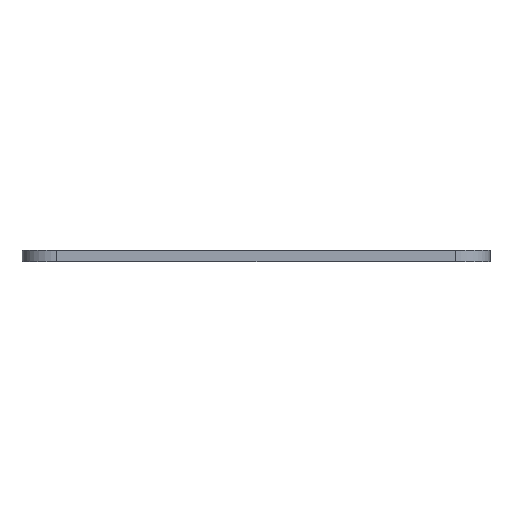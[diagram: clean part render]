
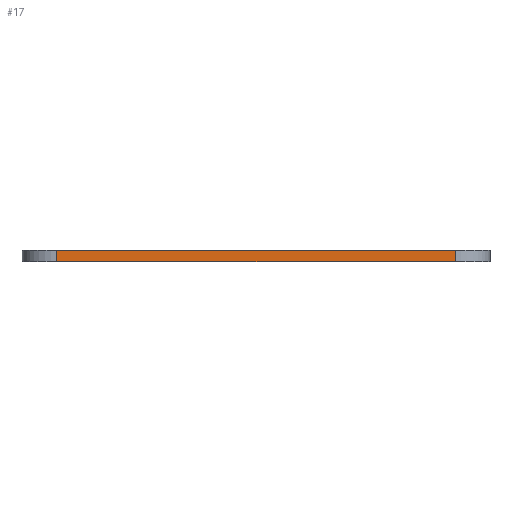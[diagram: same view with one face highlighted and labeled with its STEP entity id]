
A CAD part, left-side view. The second image highlights one B-rep face of the part: STEP entity #17.
In plain terms, the highlighted planar face has unit normal (-1, 0, 0).
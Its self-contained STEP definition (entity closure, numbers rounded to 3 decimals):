
#17 = ADVANCED_FACE('',(#18),#32,.T.);
#18 = FACE_BOUND('',#19,.T.);
#19 = EDGE_LOOP('',(#20,#55,#83,#111));
#20 = ORIENTED_EDGE('',*,*,#21,.T.);
#21 = EDGE_CURVE('',#22,#24,#26,.T.);
#22 = VERTEX_POINT('',#23);
#23 = CARTESIAN_POINT('',(-107.2,-53.,0.));
#24 = VERTEX_POINT('',#25);
#25 = CARTESIAN_POINT('',(-107.2,-53.,3.));
#26 = SURFACE_CURVE('',#27,(#31,#43),.PCURVE_S1.);
#27 = LINE('',#28,#29);
#28 = CARTESIAN_POINT('',(-107.2,-53.,0.));
#29 = VECTOR('',#30,1.);
#30 = DIRECTION('',(0.,0.,1.));
#31 = PCURVE('',#32,#37);
#32 = PLANE('',#33);
#33 = AXIS2_PLACEMENT_3D('',#34,#35,#36);
#34 = CARTESIAN_POINT('',(-107.2,-53.,0.));
#35 = DIRECTION('',(-1.,0.,0.));
#36 = DIRECTION('',(0.,1.,0.));
#37 = DEFINITIONAL_REPRESENTATION('',(#38),#42);
#38 = LINE('',#39,#40);
#39 = CARTESIAN_POINT('',(0.,0.));
#40 = VECTOR('',#41,1.);
#41 = DIRECTION('',(0.,-1.));
#42 = ( GEOMETRIC_REPRESENTATION_CONTEXT(2) 
PARAMETRIC_REPRESENTATION_CONTEXT() REPRESENTATION_CONTEXT('2D SPACE',''
  ) );
#43 = PCURVE('',#44,#49);
#44 = CYLINDRICAL_SURFACE('',#45,9.2);
#45 = AXIS2_PLACEMENT_3D('',#46,#47,#48);
#46 = CARTESIAN_POINT('',(-98.,-53.,0.));
#47 = DIRECTION('',(-0.,-0.,-1.));
#48 = DIRECTION('',(1.,0.,0.));
#49 = DEFINITIONAL_REPRESENTATION('',(#50),#54);
#50 = LINE('',#51,#52);
#51 = CARTESIAN_POINT('',(-3.142,0.));
#52 = VECTOR('',#53,1.);
#53 = DIRECTION('',(-0.,-1.));
#54 = ( GEOMETRIC_REPRESENTATION_CONTEXT(2) 
PARAMETRIC_REPRESENTATION_CONTEXT() REPRESENTATION_CONTEXT('2D SPACE',''
  ) );
#55 = ORIENTED_EDGE('',*,*,#56,.T.);
#56 = EDGE_CURVE('',#24,#57,#59,.T.);
#57 = VERTEX_POINT('',#58);
#58 = CARTESIAN_POINT('',(-107.2,53.,3.));
#59 = SURFACE_CURVE('',#60,(#64,#71),.PCURVE_S1.);
#60 = LINE('',#61,#62);
#61 = CARTESIAN_POINT('',(-107.2,0.,3.));
#62 = VECTOR('',#63,1.);
#63 = DIRECTION('',(0.,1.,0.));
#64 = PCURVE('',#32,#65);
#65 = DEFINITIONAL_REPRESENTATION('',(#66),#70);
#66 = LINE('',#67,#68);
#67 = CARTESIAN_POINT('',(53.,-3.));
#68 = VECTOR('',#69,1.);
#69 = DIRECTION('',(1.,0.));
#70 = ( GEOMETRIC_REPRESENTATION_CONTEXT(2) 
PARAMETRIC_REPRESENTATION_CONTEXT() REPRESENTATION_CONTEXT('2D SPACE',''
  ) );
#71 = PCURVE('',#72,#77);
#72 = PLANE('',#73);
#73 = AXIS2_PLACEMENT_3D('',#74,#75,#76);
#74 = CARTESIAN_POINT('',(0.,0.,3.));
#75 = DIRECTION('',(0.,0.,1.));
#76 = DIRECTION('',(1.,0.,0.));
#77 = DEFINITIONAL_REPRESENTATION('',(#78),#82);
#78 = LINE('',#79,#80);
#79 = CARTESIAN_POINT('',(-107.2,0.));
#80 = VECTOR('',#81,1.);
#81 = DIRECTION('',(0.,1.));
#82 = ( GEOMETRIC_REPRESENTATION_CONTEXT(2) 
PARAMETRIC_REPRESENTATION_CONTEXT() REPRESENTATION_CONTEXT('2D SPACE',''
  ) );
#83 = ORIENTED_EDGE('',*,*,#84,.F.);
#84 = EDGE_CURVE('',#85,#57,#87,.T.);
#85 = VERTEX_POINT('',#86);
#86 = CARTESIAN_POINT('',(-107.2,53.,0.));
#87 = SURFACE_CURVE('',#88,(#92,#99),.PCURVE_S1.);
#88 = LINE('',#89,#90);
#89 = CARTESIAN_POINT('',(-107.2,53.,0.));
#90 = VECTOR('',#91,1.);
#91 = DIRECTION('',(0.,0.,1.));
#92 = PCURVE('',#32,#93);
#93 = DEFINITIONAL_REPRESENTATION('',(#94),#98);
#94 = LINE('',#95,#96);
#95 = CARTESIAN_POINT('',(106.,0.));
#96 = VECTOR('',#97,1.);
#97 = DIRECTION('',(0.,-1.));
#98 = ( GEOMETRIC_REPRESENTATION_CONTEXT(2) 
PARAMETRIC_REPRESENTATION_CONTEXT() REPRESENTATION_CONTEXT('2D SPACE',''
  ) );
#99 = PCURVE('',#100,#105);
#100 = CYLINDRICAL_SURFACE('',#101,9.2);
#101 = AXIS2_PLACEMENT_3D('',#102,#103,#104);
#102 = CARTESIAN_POINT('',(-98.,53.,0.));
#103 = DIRECTION('',(-0.,-0.,-1.));
#104 = DIRECTION('',(1.,0.,0.));
#105 = DEFINITIONAL_REPRESENTATION('',(#106),#110);
#106 = LINE('',#107,#108);
#107 = CARTESIAN_POINT('',(-3.142,0.));
#108 = VECTOR('',#109,1.);
#109 = DIRECTION('',(-0.,-1.));
#110 = ( GEOMETRIC_REPRESENTATION_CONTEXT(2) 
PARAMETRIC_REPRESENTATION_CONTEXT() REPRESENTATION_CONTEXT('2D SPACE',''
  ) );
#111 = ORIENTED_EDGE('',*,*,#112,.F.);
#112 = EDGE_CURVE('',#22,#85,#113,.T.);
#113 = SURFACE_CURVE('',#114,(#118,#125),.PCURVE_S1.);
#114 = LINE('',#115,#116);
#115 = CARTESIAN_POINT('',(-107.2,0.,0.));
#116 = VECTOR('',#117,1.);
#117 = DIRECTION('',(0.,1.,0.));
#118 = PCURVE('',#32,#119);
#119 = DEFINITIONAL_REPRESENTATION('',(#120),#124);
#120 = LINE('',#121,#122);
#121 = CARTESIAN_POINT('',(53.,0.));
#122 = VECTOR('',#123,1.);
#123 = DIRECTION('',(1.,0.));
#124 = ( GEOMETRIC_REPRESENTATION_CONTEXT(2) 
PARAMETRIC_REPRESENTATION_CONTEXT() REPRESENTATION_CONTEXT('2D SPACE',''
  ) );
#125 = PCURVE('',#126,#131);
#126 = PLANE('',#127);
#127 = AXIS2_PLACEMENT_3D('',#128,#129,#130);
#128 = CARTESIAN_POINT('',(0.,0.,0.));
#129 = DIRECTION('',(0.,0.,1.));
#130 = DIRECTION('',(1.,0.,0.));
#131 = DEFINITIONAL_REPRESENTATION('',(#132),#136);
#132 = LINE('',#133,#134);
#133 = CARTESIAN_POINT('',(-107.2,0.));
#134 = VECTOR('',#135,1.);
#135 = DIRECTION('',(0.,1.));
#136 = ( GEOMETRIC_REPRESENTATION_CONTEXT(2) 
PARAMETRIC_REPRESENTATION_CONTEXT() REPRESENTATION_CONTEXT('2D SPACE',''
  ) );
